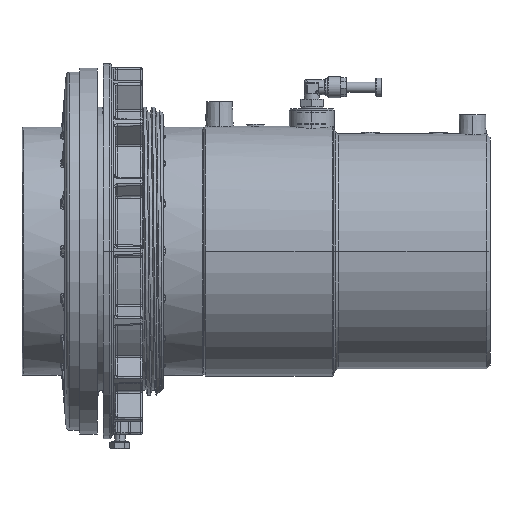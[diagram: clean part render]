
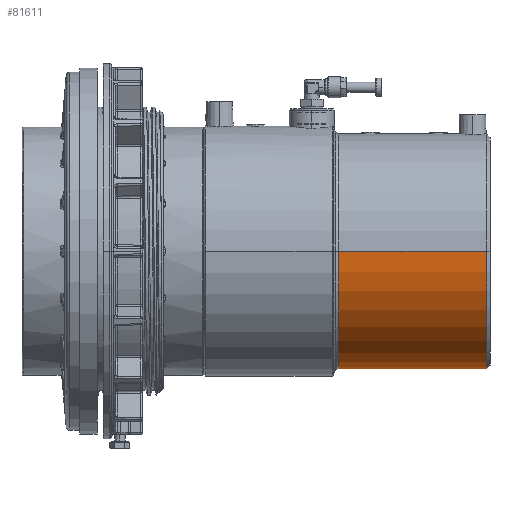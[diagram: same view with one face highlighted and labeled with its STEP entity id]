
A CAD part, left-side view. The second image highlights one B-rep face of the part: STEP entity #81611.
In plain terms, the highlighted cylindrical face has radius 67.25 mm (diameter 134.5 mm), a partial arc.
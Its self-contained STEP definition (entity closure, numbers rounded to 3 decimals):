
#10529 = VECTOR ( 'NONE', #25961, 1000. ) ;
#10543 = VECTOR ( 'NONE', #25965, 1000. ) ;
#11673 = EDGE_CURVE ( 'NONE', #78055, #78059, #17913, .T. ) ;
#17913 = CIRCLE ( 'NONE', #17918, 67.25 ) ;
#17918 = AXIS2_PLACEMENT_3D ( 'NONE', #58616, #58617, #58618 ) ;
#25909 = CARTESIAN_POINT ( 'NONE',  ( -67.25, -172.094, 0. ) ) ;
#25910 = LINE ( 'NONE', #25909, #10529 ) ;
#25961 = DIRECTION ( 'NONE',  ( 0., -1., 0. ) ) ;
#25962 = LINE ( 'NONE', #25964, #10543 ) ;
#25964 = CARTESIAN_POINT ( 'NONE',  ( 67.25, -172.094, 0. ) ) ;
#25965 = DIRECTION ( 'NONE',  ( 0., -1., 0. ) ) ;
#30865 = AXIS2_PLACEMENT_3D ( 'NONE', #36304, #36295, #36310 ) ;
#36295 = DIRECTION ( 'NONE',  ( 0., -1., 0. ) ) ;
#36302 = FACE_OUTER_BOUND ( 'NONE', #71764, .T. ) ;
#36304 = CARTESIAN_POINT ( 'NONE',  ( 0., -172.094, 0. ) ) ;
#36308 = CYLINDRICAL_SURFACE ( 'NONE', #30865, 67.25 ) ;
#36310 = DIRECTION ( 'NONE',  ( 1., 0., 0. ) ) ;
#53534 = CARTESIAN_POINT ( 'NONE',  ( -67.25, -81.109, 0. ) ) ;
#53538 = CARTESIAN_POINT ( 'NONE',  ( 67.25, -81.109, 0. ) ) ;
#53560 = CARTESIAN_POINT ( 'NONE',  ( -67.25, -165.827, 0. ) ) ;
#53562 = CARTESIAN_POINT ( 'NONE',  ( 67.25, -165.827, 0. ) ) ;
#55209 = CIRCLE ( 'NONE', #55214, 67.25 ) ;
#55214 = AXIS2_PLACEMENT_3D ( 'NONE', #56962, #56963, #56965 ) ;
#56962 = CARTESIAN_POINT ( 'NONE',  ( 0., -165.827, 0. ) ) ;
#56963 = DIRECTION ( 'NONE',  ( 0., 1., 0. ) ) ;
#56965 = DIRECTION ( 'NONE',  ( -1., 0., 0. ) ) ;
#58616 = CARTESIAN_POINT ( 'NONE',  ( 0., -81.109, 0. ) ) ;
#58617 = DIRECTION ( 'NONE',  ( 0., -1., 0. ) ) ;
#58618 = DIRECTION ( 'NONE',  ( 1., 0., 0. ) ) ;
#65885 = EDGE_CURVE ( 'NONE', #78055, #78083, #25910, .T. ) ;
#65887 = EDGE_CURVE ( 'NONE', #78059, #78085, #25962, .T. ) ;
#71764 = EDGE_LOOP ( 'NONE', ( #83744, #83745, #83746, #83747 ) ) ;
#78055 = VERTEX_POINT ( 'NONE', #53534 ) ;
#78059 = VERTEX_POINT ( 'NONE', #53538 ) ;
#78083 = VERTEX_POINT ( 'NONE', #53560 ) ;
#78085 = VERTEX_POINT ( 'NONE', #53562 ) ;
#81611 = ADVANCED_FACE ( 'NONE', ( #36302 ), #36308, .T. ) ;
#82449 = EDGE_CURVE ( 'NONE', #78085, #78083, #55209, .T. ) ;
#83744 = ORIENTED_EDGE ( 'NONE', *, *, #65885, .F. ) ;
#83745 = ORIENTED_EDGE ( 'NONE', *, *, #11673, .T. ) ;
#83746 = ORIENTED_EDGE ( 'NONE', *, *, #65887, .T. ) ;
#83747 = ORIENTED_EDGE ( 'NONE', *, *, #82449, .T. ) ;
